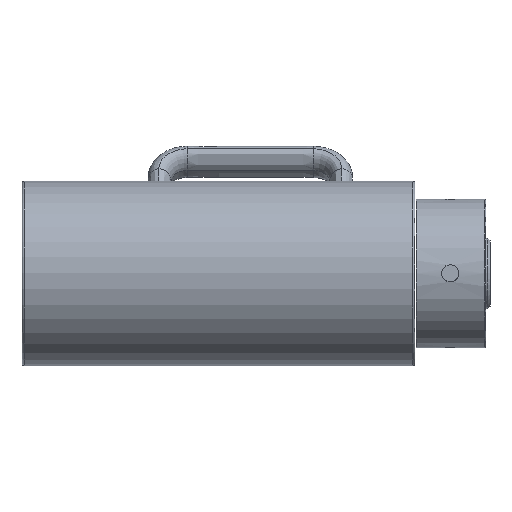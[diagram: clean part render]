
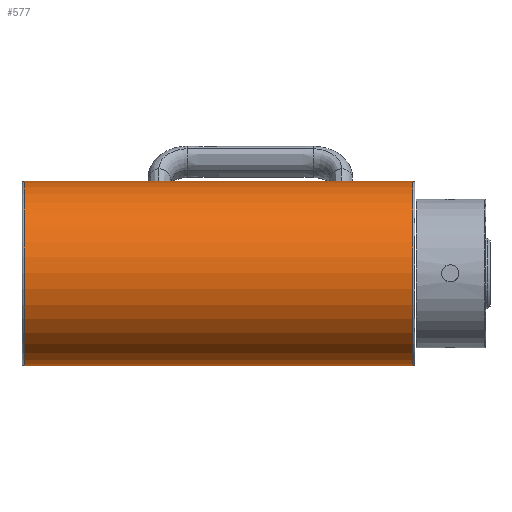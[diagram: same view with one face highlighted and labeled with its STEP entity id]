
A CAD part, top view. The second image highlights one B-rep face of the part: STEP entity #577.
In plain terms, the highlighted cylindrical face has radius 65 mm (diameter 130 mm), a partial arc.
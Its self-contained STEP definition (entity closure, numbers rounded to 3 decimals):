
#49=CARTESIAN_POINT('',(-1.5,0.,0.));
#50=DIRECTION('',(1.,0.,0.));
#51=DIRECTION('',(0.,1.,0.));
#52=AXIS2_PLACEMENT_3D('',#49,#50,#51);
#59=DIRECTION('',(1.,0.,0.));
#60=VECTOR('',#59,274.);
#61=CARTESIAN_POINT('',(-275.5,65.,0.));
#62=LINE('',#61,#60);
#63=DIRECTION('',(1.,0.,0.));
#64=VECTOR('',#63,274.);
#65=CARTESIAN_POINT('',(-275.5,-65.,0.));
#66=LINE('',#65,#64);
#67=CARTESIAN_POINT('',(-275.5,0.,0.));
#68=DIRECTION('',(1.,0.,0.));
#69=DIRECTION('',(0.,1.,0.));
#70=AXIS2_PLACEMENT_3D('',#67,#68,#69);
#469=CARTESIAN_POINT('',(-275.5,-65.,0.));
#470=CARTESIAN_POINT('',(-275.5,65.,0.));
#471=VERTEX_POINT('',#469);
#472=VERTEX_POINT('',#470);
#481=CARTESIAN_POINT('',(-1.5,-65.,0.));
#482=CARTESIAN_POINT('',(-1.5,65.,0.));
#483=VERTEX_POINT('',#481);
#484=VERTEX_POINT('',#482);
#563=CARTESIAN_POINT('',(13.85,0.,0.));
#564=DIRECTION('',(-1.,0.,0.));
#565=DIRECTION('',(0.,-1.,0.));
#566=AXIS2_PLACEMENT_3D('',#563,#564,#565);
#567=CYLINDRICAL_SURFACE('',#566,65.);
#569=ORIENTED_EDGE('',*,*,#568,.F.);
#571=ORIENTED_EDGE('',*,*,#570,.T.);
#572=ORIENTED_EDGE('',*,*,#557,.T.);
#574=ORIENTED_EDGE('',*,*,#573,.F.);
#575=EDGE_LOOP('',(#569,#571,#572,#574));
#576=FACE_OUTER_BOUND('',#575,.F.);
#577=ADVANCED_FACE('',(#576),#567,.T.);
#53=CIRCLE('',#52,65.);
#71=CIRCLE('',#70,65.);
#557=EDGE_CURVE('',#484,#483,#53,.T.);
#568=EDGE_CURVE('',#472,#471,#71,.T.);
#570=EDGE_CURVE('',#472,#484,#62,.T.);
#573=EDGE_CURVE('',#471,#483,#66,.T.);
